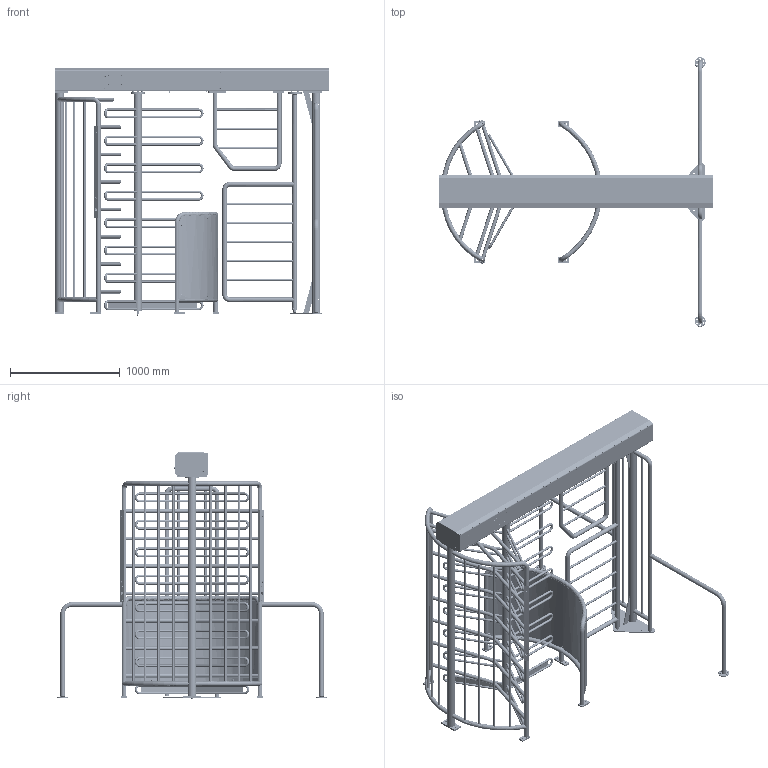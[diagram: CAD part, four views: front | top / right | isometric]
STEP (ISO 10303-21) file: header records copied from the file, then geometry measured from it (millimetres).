
FILE_DESCRIPTION(/* description */ ('Unknown'),/* implementation_level */ '2;1');
FILE_NAME(/* name */ '55870032_00',/* time_stamp */ '2026-04-24T09:14:37+02:00',/* author */ ('Unknown'),/* organization */ ('Unknown'),/* preprocessor_version */ 'ST-DEVELOPER v18.104',/* originating_system */ 'Solid Edge',/* authorisation */ 'Unknown');
FILE_SCHEMA (('AUTOMOTIVE_DESIGN {1 0 10303 214 3 1 1}'));
Products named in the file (1): 55870032
Bounding box: 2500 x 2457.6 x 2253.09 mm (x, y, z)
Volume: 42998502.4 mm3; surface area: 26929364.7 mm2
Topology: 324 solids, 324 shells, 5480 faces, 13438 edges, 8718 vertices
Faces by surface type: plane 3005, cylinder 1401, cone 711, torus 330, sphere 25, bspline 8
Full cylindrical faces by diameter (mm): 0.1 x12, 1 x14, 2 x1, 2.387 x4, 2.459 x12, 2.5 x8, 2.693 x4, 3 x28, 3.1 x4, 3.14 x2, 3.2 x8, 3.242 x4, 3.3 x1, 4 x18, 4.134 x20, 4.2 x10, 4.3 x2, 4.4 x1, 4.5 x6, 4.8 x2, 5 x51, 5.3 x4, 5.5 x20, 5.9 x6, 6 x41, 6.466 x4, 6.5 x1, 6.6 x4, 6.8 x14, 7 x13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
Entity records: 195591 total; most frequent: CARTESIAN_POINT 70296, DIRECTION 23662, ORIENTED_EDGE 21484, EDGE_CURVE 10742, AXIS2_PLACEMENT_3D 9410, FACE_BOUND 8656, EDGE_LOOP 8616, VERTEX_POINT 7980
